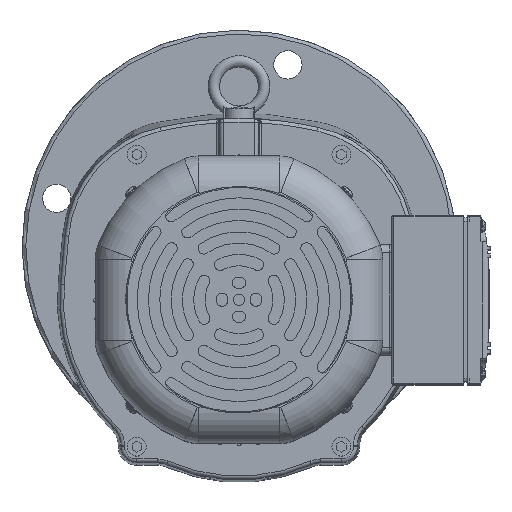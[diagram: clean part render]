
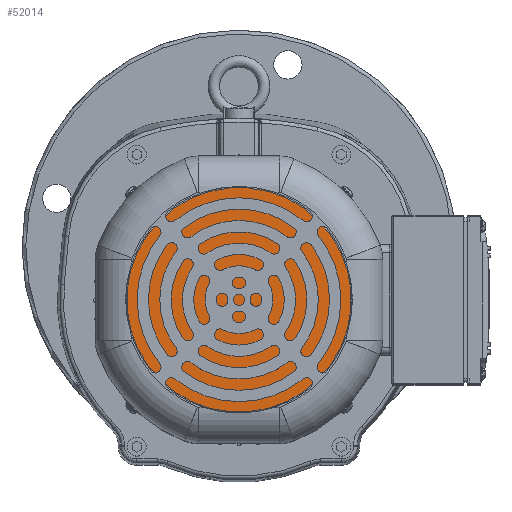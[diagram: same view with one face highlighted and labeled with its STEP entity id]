
A CAD part, top view. The second image highlights one B-rep face of the part: STEP entity #52014.
In plain terms, the highlighted planar face has unit normal (0, 0, 1).
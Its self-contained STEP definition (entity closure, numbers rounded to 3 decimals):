
#1288=PLANE('',#56029);
#9444=FACE_OUTER_BOUND('',#12606,.T.);
#12606=EDGE_LOOP('',(#36793));
#15847=CIRCLE('',#56027,59.5);
#21274=VERTEX_POINT('',#81176);
#26846=EDGE_CURVE('',#21274,#21274,#15847,.T.);
#36793=ORIENTED_EDGE('',*,*,#26846,.F.);
#52014=ADVANCED_FACE('',(#9444),#1288,.F.);
#56027=AXIS2_PLACEMENT_3D('',#81177,#64658,#64659);
#56029=AXIS2_PLACEMENT_3D('',#81181,#64663,#64664);
#64658=DIRECTION('center_axis',(0.,0.,
-1.));
#64659=DIRECTION('ref_axis',(0.707,-0.707,0.));
#64663=DIRECTION('center_axis',(0.,0.,
-1.));
#64664=DIRECTION('ref_axis',(0.707,-0.707,0.));
#81176=CARTESIAN_POINT('',(-50.234,18.1,299.7));
#81177=CARTESIAN_POINT('Origin',(-8.161,-23.973,299.7));
#81181=CARTESIAN_POINT('Origin',(-8.161,-23.973,299.7));
